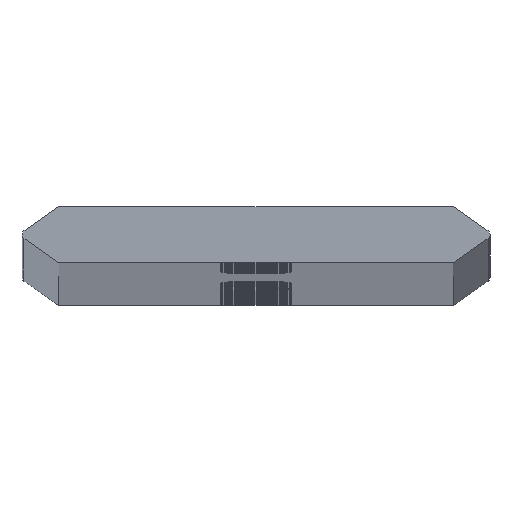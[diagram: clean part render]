
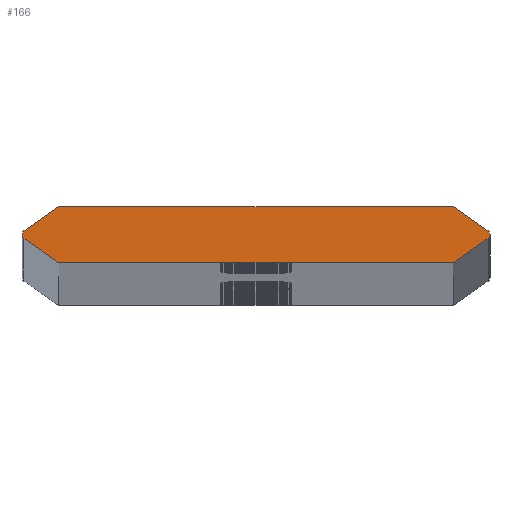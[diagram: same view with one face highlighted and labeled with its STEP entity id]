
A CAD part, top view. The second image highlights one B-rep face of the part: STEP entity #166.
In plain terms, the highlighted planar face has unit normal (0, 0, 1).
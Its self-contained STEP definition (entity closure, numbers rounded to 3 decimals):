
#166=ADVANCED_FACE('',(#358),#359,.T.);
#358=FACE_OUTER_BOUND('',#646,.T.);
#359=PLANE('',#647);
#646=EDGE_LOOP('',(#1389,#1390,#1391,#1392,#1393,#1394,#1395,#1396,#1397,#1398));
#647=AXIS2_PLACEMENT_3D('',#1399,#1400,#1401);
#1389=ORIENTED_EDGE('',*,*,#1645,.T.);
#1390=ORIENTED_EDGE('',*,*,#1914,.T.);
#1391=ORIENTED_EDGE('',*,*,#1915,.F.);
#1392=ORIENTED_EDGE('',*,*,#1916,.F.);
#1393=ORIENTED_EDGE('',*,*,#1917,.F.);
#1394=ORIENTED_EDGE('',*,*,#1641,.T.);
#1395=ORIENTED_EDGE('',*,*,#1918,.T.);
#1396=ORIENTED_EDGE('',*,*,#1919,.F.);
#1397=ORIENTED_EDGE('',*,*,#1920,.F.);
#1398=ORIENTED_EDGE('',*,*,#1921,.F.);
#1399=CARTESIAN_POINT('',(0.,0.,3956.0));
#1400=DIRECTION('',(0.0,0.0,1.0));
#1401=DIRECTION('',(1.0,0.0,0.0));
#1641=EDGE_CURVE('',#1937,#1934,#1938,.T.);
#1645=EDGE_CURVE('',#1945,#1942,#1946,.T.);
#1914=EDGE_CURVE('',#1942,#2392,#2394,.T.);
#1915=EDGE_CURVE('',#2395,#2392,#2396,.T.);
#1916=EDGE_CURVE('',#2397,#2395,#2398,.T.);
#1917=EDGE_CURVE('',#1937,#2397,#2399,.T.);
#1918=EDGE_CURVE('',#1934,#2400,#2401,.T.);
#1919=EDGE_CURVE('',#2402,#2400,#2403,.T.);
#1920=EDGE_CURVE('',#2404,#2402,#2405,.T.);
#1921=EDGE_CURVE('',#1945,#2404,#2406,.T.);
#1934=VERTEX_POINT('',#2424);
#1937=VERTEX_POINT('',#2428);
#1938=CIRCLE('',#2429,0.76);
#1942=VERTEX_POINT('',#2434);
#1945=VERTEX_POINT('',#2438);
#1946=CIRCLE('',#2439,0.76);
#2392=VERTEX_POINT('',#2974);
#2394=CIRCLE('',#2977,0.76);
#2395=VERTEX_POINT('',#2978);
#2396=LINE('',#2979,#2980);
#2397=VERTEX_POINT('',#2981);
#2398=LINE('',#2982,#2983);
#2399=LINE('',#2984,#2985);
#2400=VERTEX_POINT('',#2986);
#2401=CIRCLE('',#2987,0.76);
#2402=VERTEX_POINT('',#2988);
#2403=LINE('',#2989,#2990);
#2404=VERTEX_POINT('',#2991);
#2405=LINE('',#2992,#2993);
#2406=LINE('',#2994,#2995);
#2424=CARTESIAN_POINT('',(37.84,0.,3956.0));
#2428=CARTESIAN_POINT('',(37.519,-0.62,3956.0));
#2429=AXIS2_PLACEMENT_3D('',#3025,#3026,#3027);
#2434=CARTESIAN_POINT('',(-37.84,0.,3956.0));
#2438=CARTESIAN_POINT('',(-37.519,0.62,3956.0));
#2439=AXIS2_PLACEMENT_3D('',#3033,#3034,#3035);
#2974=CARTESIAN_POINT('',(-37.519,-0.62,3956.0));
#2977=AXIS2_PLACEMENT_3D('',#3660,#3661,#3662);
#2978=CARTESIAN_POINT('',(-31.907,-4.55,3956.0));
#2979=CARTESIAN_POINT('',(-38.405,0.,3956.0));
#2980=VECTOR('',#3663,1.0);
#2981=CARTESIAN_POINT('',(31.907,-4.55,3956.0));
#2982=CARTESIAN_POINT('',(31.907,-4.55,3956.0));
#2983=VECTOR('',#3664,1.0);
#2984=CARTESIAN_POINT('',(38.405,0.0,3956.0));
#2985=VECTOR('',#3665,1.0);
#2986=CARTESIAN_POINT('',(37.519,0.62,3956.0));
#2987=AXIS2_PLACEMENT_3D('',#3666,#3667,#3668);
#2988=CARTESIAN_POINT('',(31.907,4.55,3956.0));
#2989=CARTESIAN_POINT('',(38.405,0.0,3956.0));
#2990=VECTOR('',#3669,1.0);
#2991=CARTESIAN_POINT('',(-31.907,4.55,3956.0));
#2992=CARTESIAN_POINT('',(-31.907,4.55,3956.0));
#2993=VECTOR('',#3670,1.0);
#2994=CARTESIAN_POINT('',(-38.405,0.,3956.0));
#2995=VECTOR('',#3671,1.0);
#3025=CARTESIAN_POINT('',(37.08,0.0,3956.0));
#3026=DIRECTION('',(0.0,0.0,1.0));
#3027=DIRECTION('',(1.0,0.0,0.0));
#3033=CARTESIAN_POINT('',(-37.08,0.,3956.0));
#3034=DIRECTION('',(0.0,0.0,1.0));
#3035=DIRECTION('',(-1.0,0.,0.0));
#3660=CARTESIAN_POINT('',(-37.08,0.,3956.0));
#3661=DIRECTION('',(0.0,0.0,1.0));
#3662=DIRECTION('',(-1.0,0.,0.0));
#3663=DIRECTION('',(-0.819,0.574,0.0));
#3664=DIRECTION('',(-1.0,0.0,0.0));
#3665=DIRECTION('',(-0.819,-0.574,0.0));
#3666=CARTESIAN_POINT('',(37.08,0.0,3956.0));
#3667=DIRECTION('',(0.0,0.0,1.0));
#3668=DIRECTION('',(1.0,0.0,0.0));
#3669=DIRECTION('',(0.819,-0.574,0.0));
#3670=DIRECTION('',(1.0,0.,0.0));
#3671=DIRECTION('',(0.819,0.574,0.0));
